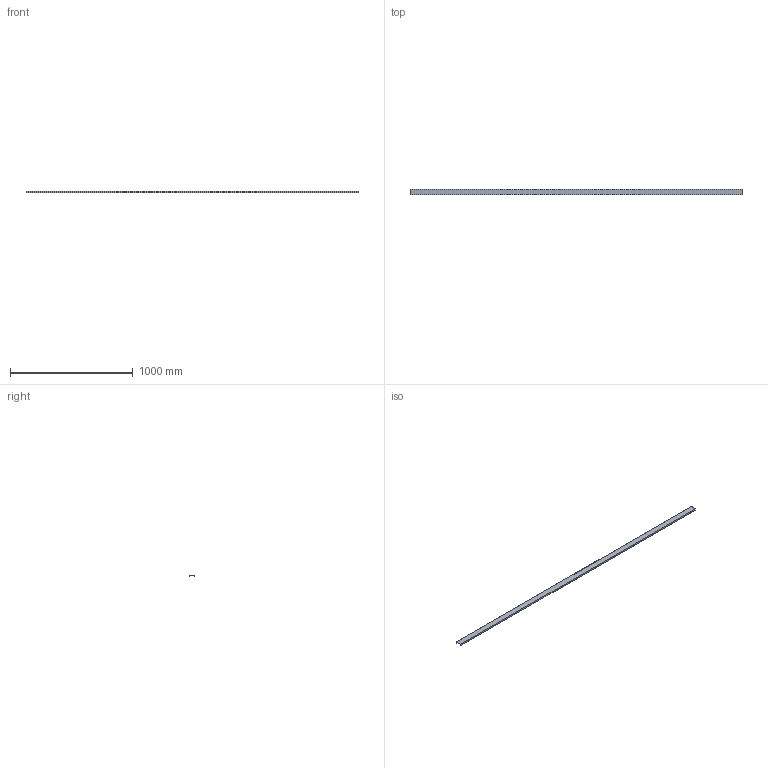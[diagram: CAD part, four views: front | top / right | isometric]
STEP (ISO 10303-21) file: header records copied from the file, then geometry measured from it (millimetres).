
FILE_DESCRIPTION(('STEP AP242'),'1');
FILE_NAME('OPO_65.084.48_volu_schn_3d.stp','2026-02-23T17:31:46',(' '),(' '),'Spatial InterOp 3D',' ',' ');
FILE_SCHEMA(('AP242_MANAGED_MODEL_BASED_3D_ENGINEERING_MIM_LF {1 0 10303 442 1 1 4}'));
Length unit declared in the file: millimetre
Products named in the file (1): 1
Bounding box: 2700 x 48 x 13.5 mm (x, y, z)
Volume: 197100 mm3; surface area: 399746 mm2
Topology: 1 solids, 1 shells, 52 faces, 260 edges, 338 vertices
Faces by surface type: plane 32, cylinder 20
Entity records: 3551 total; most frequent: DIRECTION 428, CARTESIAN_POINT 404, ORIENTED_EDGE 272, LINE 200, VECTOR 200, STYLED_ITEM 176, PRESENTATION_STYLE_ASSIGNMENT 176, COLOUR_RGB 176
